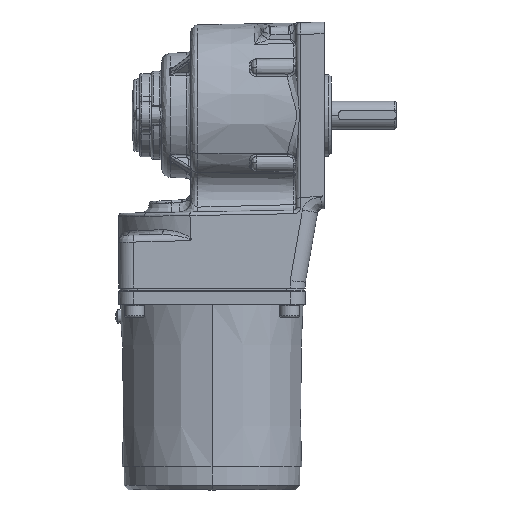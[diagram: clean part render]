
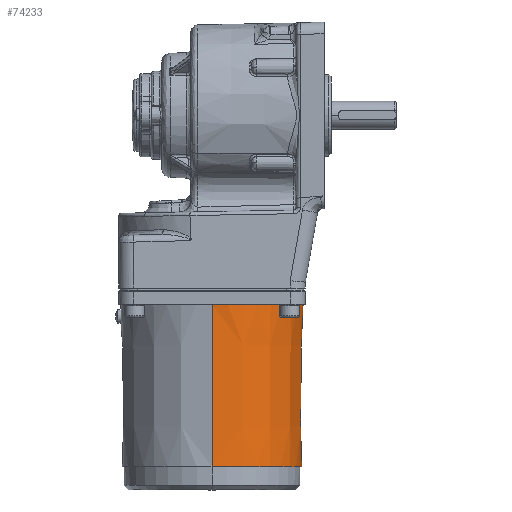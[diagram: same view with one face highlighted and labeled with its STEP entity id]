
A CAD part, front view. The second image highlights one B-rep face of the part: STEP entity #74233.
In plain terms, the highlighted conical face has half-angle 0.5 degrees and reference radius 39 mm.
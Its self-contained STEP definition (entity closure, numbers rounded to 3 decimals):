
#207 = CONICAL_SURFACE ( 'NONE', #65235, 39., 0.009 ) ;
#1180 = FACE_OUTER_BOUND ( 'NONE', #43439, .T. ) ;
#6181 = AXIS2_PLACEMENT_3D ( 'NONE', #58105, #58023, #58015 ) ;
#6839 = AXIS2_PLACEMENT_3D ( 'NONE', #76058, #75999, #75979 ) ;
#11256 = ORIENTED_EDGE ( 'NONE', *, *, #51602, .T. ) ;
#12012 = CARTESIAN_POINT ( 'NONE',  ( 0., 69.5, 38.393 ) ) ;
#14757 = ORIENTED_EDGE ( 'NONE', *, *, #51514, .T. ) ;
#17162 = LINE ( 'NONE', #54649, #70835 ) ;
#18713 = VERTEX_POINT ( 'NONE', #35721 ) ;
#32659 = CARTESIAN_POINT ( 'NONE',  ( 0., 69.5, -38.393 ) ) ;
#35721 = CARTESIAN_POINT ( 'NONE',  ( 0., 0., 39. ) ) ;
#36297 = DIRECTION ( 'NONE',  ( 0., -1., 0. ) ) ;
#37064 = CIRCLE ( 'NONE', #6839, 39. ) ;
#42277 = VERTEX_POINT ( 'NONE', #12012 ) ;
#42295 = DIRECTION ( 'NONE',  ( 0., 0., -1. ) ) ;
#43439 = EDGE_LOOP ( 'NONE', ( #11256, #14757, #59531, #72813 ) ) ;
#46314 = EDGE_CURVE ( 'NONE', #18713, #49743, #37064, .T. ) ;
#46408 = CIRCLE ( 'NONE', #6181, 38.393 ) ;
#46766 = VECTOR ( 'NONE', #59275, 1000. ) ;
#48687 = LINE ( 'NONE', #60403, #46766 ) ;
#49743 = VERTEX_POINT ( 'NONE', #75751 ) ;
#51514 = EDGE_CURVE ( 'NONE', #42277, #18713, #48687, .T. ) ;
#51602 = EDGE_CURVE ( 'NONE', #56645, #42277, #46408, .T. ) ;
#53601 = CARTESIAN_POINT ( 'NONE',  ( 0., 0., 0. ) ) ;
#54348 = EDGE_CURVE ( 'NONE', #56645, #49743, #17162, .T. ) ;
#54395 = DIRECTION ( 'NONE',  ( 0., -1., -0.009 ) ) ;
#54649 = CARTESIAN_POINT ( 'NONE',  ( 0., 0., -39. ) ) ;
#56645 = VERTEX_POINT ( 'NONE', #32659 ) ;
#58015 = DIRECTION ( 'NONE',  ( 0., 0., -1. ) ) ;
#58023 = DIRECTION ( 'NONE',  ( 0., -1., 0. ) ) ;
#58105 = CARTESIAN_POINT ( 'NONE',  ( 0., 69.5, 0. ) ) ;
#59275 = DIRECTION ( 'NONE',  ( 0., -1., 0.009 ) ) ;
#59531 = ORIENTED_EDGE ( 'NONE', *, *, #46314, .T. ) ;
#60403 = CARTESIAN_POINT ( 'NONE',  ( 0., 0., 39. ) ) ;
#65235 = AXIS2_PLACEMENT_3D ( 'NONE', #53601, #36297, #42295 ) ;
#70835 = VECTOR ( 'NONE', #54395, 1000. ) ;
#72813 = ORIENTED_EDGE ( 'NONE', *, *, #54348, .F. ) ;
#74233 = ADVANCED_FACE ( 'NONE', ( #1180 ), #207, .T. ) ;
#75751 = CARTESIAN_POINT ( 'NONE',  ( 0., 0., -39. ) ) ;
#75979 = DIRECTION ( 'NONE',  ( 0., 0., -1. ) ) ;
#75999 = DIRECTION ( 'NONE',  ( 0., 1., 0. ) ) ;
#76058 = CARTESIAN_POINT ( 'NONE',  ( 0., 0., 0. ) ) ;
